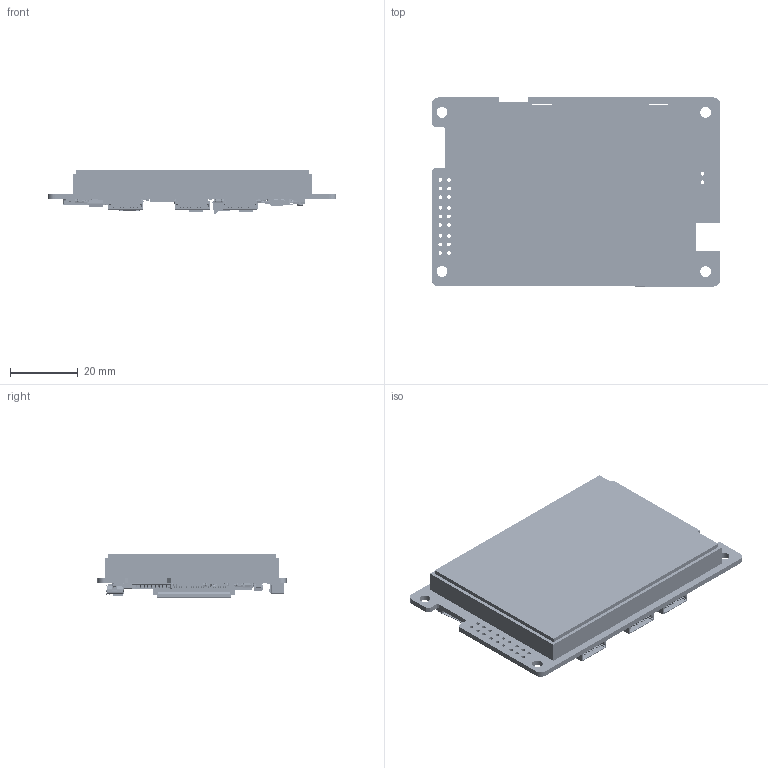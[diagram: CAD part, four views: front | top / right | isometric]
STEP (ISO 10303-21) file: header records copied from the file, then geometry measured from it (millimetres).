
FILE_DESCRIPTION(/* description */ ('Open CASCADE Model'),/* implementation_level */ '2;1');
FILE_NAME(/* name */ 'P28320-028T-L0101.stp',/* time_stamp */ '2025-10-07T09:09:50-03:00',/* author */ ('Reservaa'),/* organization */ ('Open CASCADE'),/* preprocessor_version */ 'ST-DEVELOPER v20',/* originating_system */ 'Autodesk Inventor 2024',/* authorisation */ 'Unknown');
FILE_SCHEMA (('AUTOMOTIVE_DESIGN { 1 0 10303 214 3 1 1 }'));
Products named in the file (259): PCB; Board; Open CASCADE STEP translator 7.5 4.1.1; C76; U3; R51; R50; R38; R37; R36; C33; C32; C31; C30; C23; C22; C21; R32; R15; R35; R28; R27; R26; R25; R24; R23; R22; R21; F8; F3; F1; D16; D14; D7; D6; D5; CN1; C29; R20; D1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
Assembly tree (444 placements, depth 6):
  PCB
    Board
      Open CASCADE STEP translator 7.5 4.1.1
    C76
      User Library-C0402-1
    U3
      CircuitWorks-SOT-23
    R51
      User Library-R-0402
    R50
      User Library-R-0402
    R38
      User Library-R-0402
    R37
      User Library-R-0402
    R36
      User Library-R-0402
    C33
      User Library-C0402-1
    C32
      User Library-C0402-1
    C31
      User Library-C0402-1
    C30
      User Library-C0402-1
    C23
      User Library-C0402-1
    C22
      User Library-C0402-1
    C21
      User Library-C0402-1
    R32
      User Library-R-0402
    R15
      User Library-R-0402
    R35
      User Library-R-0402
    R28
      User Library-R-0402
    R27
      User Library-R-0402
    R26
      User Library-R-0402
    R25
      User Library-R-0402
    R24
      User Library-R-0402
    R23
      User Library-R-0402
    R22
      User Library-R-0402
    R21
      User Library-R-0402
    F8
      F0603
    F3
      F0603
    F1
      F0603
    D16
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Bounding box: 85.2 x 55.87 x 13.07 mm (x, y, z)
Volume: 32407 mm3; surface area: 31780.6 mm2
Topology: 496 solids, 752 shells, 35616 faces, 85355 edges, 48339 vertices
Faces by surface type: plane 15178, cylinder 9982, bspline 6724, sphere 3220, torus 503, cone 9
Full cylindrical faces by diameter (mm): 0.3 x2, 0.45 x9, 0.8 x8, 1 x2, 1.1 x20, 1.8 x5, 2 x1, 3.2 x4
Entity records: 332672 total; most frequent: CARTESIAN_POINT 100276, ORIENTED_EDGE 47765, DIRECTION 42552, EDGE_CURVE 23889, LINE 19962, VECTOR 19962, VERTEX_POINT 15545, AXIS2_PLACEMENT_3D 11295
